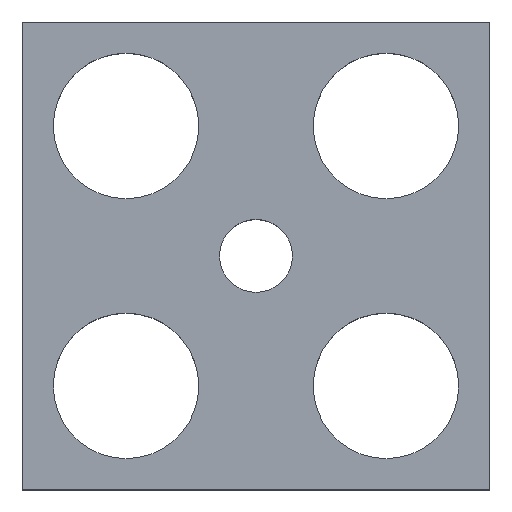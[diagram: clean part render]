
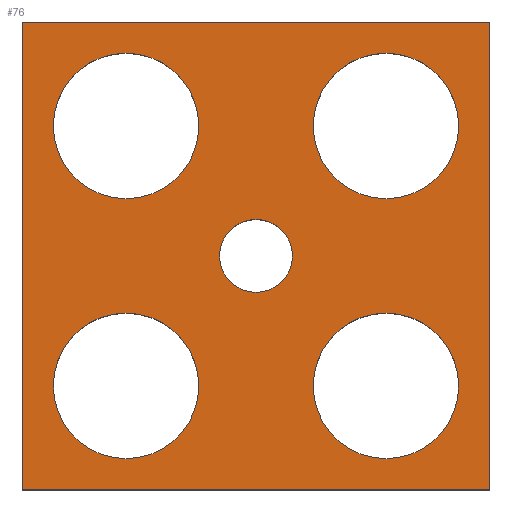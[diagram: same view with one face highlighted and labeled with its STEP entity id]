
A CAD part, top view. The second image highlights one B-rep face of the part: STEP entity #76.
In plain terms, the highlighted planar face has unit normal (0, 0, 1).
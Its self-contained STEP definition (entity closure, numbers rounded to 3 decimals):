
#54=FACE_BOUND('',#101,.T.);
#55=FACE_BOUND('',#102,.T.);
#56=FACE_BOUND('',#103,.T.);
#57=FACE_BOUND('',#104,.T.);
#58=FACE_BOUND('',#105,.T.);
#59=FACE_BOUND('',#106,.T.);
#76=ADVANCED_FACE('',(#54,#55,#56,#57,#58,#59),#83,.T.);
#83=PLANE('',#267);
#101=EDGE_LOOP('',(#139));
#102=EDGE_LOOP('',(#140,#141,#142,#143));
#103=EDGE_LOOP('',(#144));
#104=EDGE_LOOP('',(#145));
#105=EDGE_LOOP('',(#146));
#106=EDGE_LOOP('',(#147));
#139=ORIENTED_EDGE('',*,*,#197,.F.);
#140=ORIENTED_EDGE('',*,*,#179,.T.);
#141=ORIENTED_EDGE('',*,*,#183,.T.);
#142=ORIENTED_EDGE('',*,*,#186,.T.);
#143=ORIENTED_EDGE('',*,*,#194,.T.);
#144=ORIENTED_EDGE('',*,*,#191,.F.);
#145=ORIENTED_EDGE('',*,*,#189,.F.);
#146=ORIENTED_EDGE('',*,*,#187,.F.);
#147=ORIENTED_EDGE('',*,*,#195,.F.);
#161=VERTEX_POINT('',#338);
#162=VERTEX_POINT('',#340);
#164=VERTEX_POINT('',#346);
#166=VERTEX_POINT('',#352);
#167=VERTEX_POINT('',#356);
#169=VERTEX_POINT('',#361);
#171=VERTEX_POINT('',#366);
#173=VERTEX_POINT('',#374);
#175=VERTEX_POINT('',#379);
#179=EDGE_CURVE('',#162,#161,#201,.T.);
#183=EDGE_CURVE('',#161,#164,#205,.T.);
#186=EDGE_CURVE('',#164,#166,#208,.T.);
#187=EDGE_CURVE('',#167,#167,#237,.T.);
#189=EDGE_CURVE('',#169,#169,#239,.T.);
#191=EDGE_CURVE('',#171,#171,#241,.T.);
#194=EDGE_CURVE('',#166,#162,#210,.T.);
#195=EDGE_CURVE('',#173,#173,#243,.T.);
#197=EDGE_CURVE('',#175,#175,#245,.T.);
#201=LINE('',#339,#213);
#205=LINE('',#347,#217);
#208=LINE('',#353,#220);
#210=LINE('',#371,#222);
#213=VECTOR('',#279,1.);
#217=VECTOR('',#285,1.);
#220=VECTOR('',#290,1.);
#222=VECTOR('',#312,1.);
#237=CIRCLE('',#253,14.);
#239=CIRCLE('',#256,14.);
#241=CIRCLE('',#259,14.);
#243=CIRCLE('',#263,14.);
#245=CIRCLE('',#266,7.);
#253=AXIS2_PLACEMENT_3D('',#355,#293,#294);
#256=AXIS2_PLACEMENT_3D('',#360,#299,#300);
#259=AXIS2_PLACEMENT_3D('',#365,#305,#306);
#263=AXIS2_PLACEMENT_3D('',#373,#315,#316);
#266=AXIS2_PLACEMENT_3D('',#378,#321,#322);
#267=AXIS2_PLACEMENT_3D('',#380,#323,#324);
#279=DIRECTION('',(0.,1.,0.));
#285=DIRECTION('',(-1.,0.,0.));
#290=DIRECTION('',(0.,-1.,0.));
#293=DIRECTION('',(0.,0.,1.));
#294=DIRECTION('',(1.,0.,0.));
#299=DIRECTION('',(0.,0.,1.));
#300=DIRECTION('',(1.,0.,0.));
#305=DIRECTION('',(0.,0.,1.));
#306=DIRECTION('',(1.,0.,0.));
#312=DIRECTION('',(1.,0.,0.));
#315=DIRECTION('',(0.,0.,1.));
#316=DIRECTION('',(1.,0.,0.));
#321=DIRECTION('',(0.,0.,1.));
#322=DIRECTION('',(1.,0.,0.));
#323=DIRECTION('',(0.,0.,1.));
#324=DIRECTION('',(1.,0.,0.));
#338=CARTESIAN_POINT('',(45.,45.,35.));
#339=CARTESIAN_POINT('',(45.,-45.,35.));
#340=CARTESIAN_POINT('',(45.,-45.,35.));
#346=CARTESIAN_POINT('',(-45.,45.,35.));
#347=CARTESIAN_POINT('',(45.,45.,35.));
#352=CARTESIAN_POINT('',(-45.,-45.,35.));
#353=CARTESIAN_POINT('',(-45.,45.,35.));
#355=CARTESIAN_POINT('',(25.,-25.,35.));
#356=CARTESIAN_POINT('',(39.,-25.,35.));
#360=CARTESIAN_POINT('',(-25.,25.,35.));
#361=CARTESIAN_POINT('',(-11.,25.,35.));
#365=CARTESIAN_POINT('',(-25.,-25.,35.));
#366=CARTESIAN_POINT('',(-11.,-25.,35.));
#371=CARTESIAN_POINT('',(-45.,-45.,35.));
#373=CARTESIAN_POINT('',(25.,25.,35.));
#374=CARTESIAN_POINT('',(39.,25.,35.));
#378=CARTESIAN_POINT('',(0.,0.,35.));
#379=CARTESIAN_POINT('',(7.,0.,35.));
#380=CARTESIAN_POINT('',(-25.,-25.,35.));
